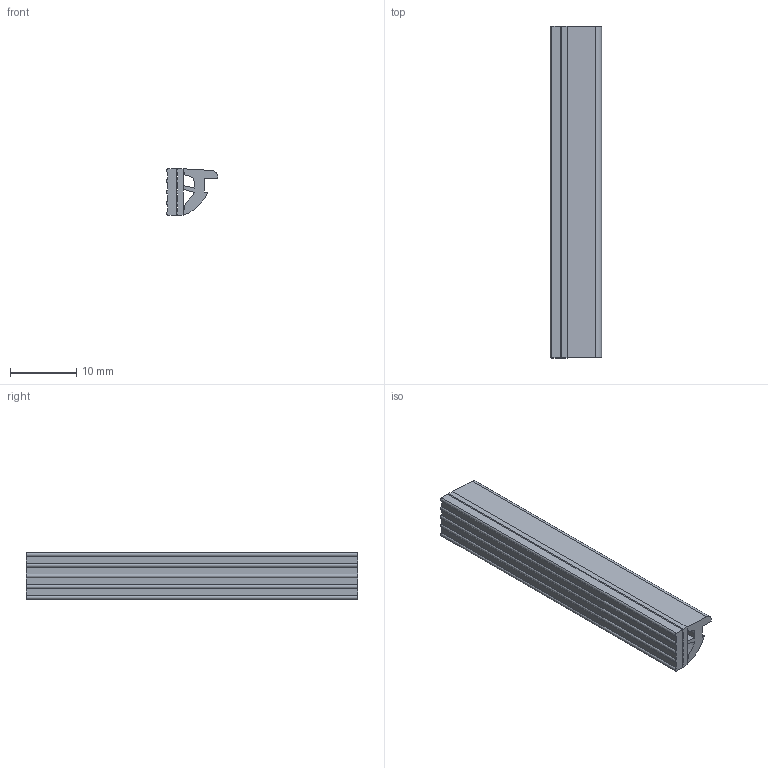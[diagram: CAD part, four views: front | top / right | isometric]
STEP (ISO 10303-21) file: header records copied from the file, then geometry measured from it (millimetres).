
FILE_DESCRIPTION(('STEP AP214'),'1');
FILE_NAME('RP2M-L.stp','2017-07-28T00:39:06',(' '),(' '),'Spatial InterOp 3D',' ',' ');
FILE_SCHEMA(('automotive_design'));
Length unit declared in the file: millimetre
Products named in the file (3): 1; 2; 3
Bounding box: 7.7 x 50 x 7 mm (x, y, z)
Volume: 1589.8 mm3; surface area: 3141 mm2
Topology: 3 solids, 3 shells, 46 faces, 120 edges, 80 vertices
Faces by surface type: plane 32, cylinder 14
Entity records: 1826 total; most frequent: CARTESIAN_POINT 249, DIRECTION 246, ORIENTED_EDGE 240, EDGE_CURVE 120, LINE 92, VECTOR 92, VERTEX_POINT 80, AXIS2_PLACEMENT_3D 77
